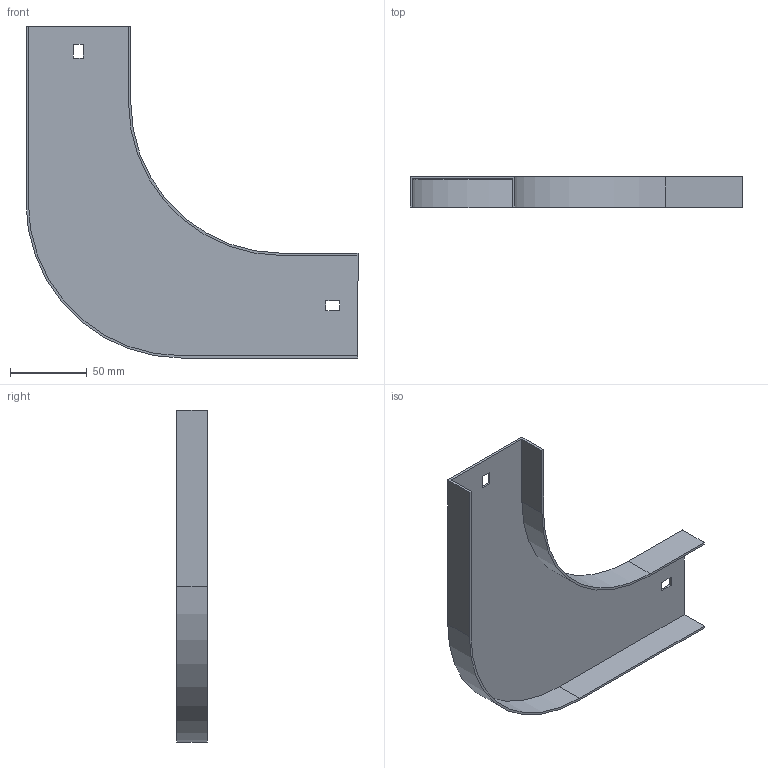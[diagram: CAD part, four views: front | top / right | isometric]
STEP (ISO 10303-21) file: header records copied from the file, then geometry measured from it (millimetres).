
FILE_DESCRIPTION (( 'STEP AP214' ), '1' );
FILE_NAME ('10N1R065.step', '2025-02-21T09:21:24', ( '' ), ( '' ), 'SwSTEP 2.0', 'SolidWorks 2023', '' );
FILE_SCHEMA (( 'AUTOMOTIVE_DESIGN' ));
Length unit declared in the file: millimetre
Products named in the file (1): 10N1R065
Bounding box: 217 x 20 x 217 mm (x, y, z)
Volume: 55089.7 mm3; surface area: 74830.1 mm2
Topology: 1 solids, 1 shells, 26 faces, 72 edges, 48 vertices
Faces by surface type: plane 22, cylinder 4
Entity records: 855 total; most frequent: CARTESIAN_POINT 147, ORIENTED_EDGE 144, DIRECTION 134, EDGE_CURVE 72, VECTOR 64, LINE 64, VERTEX_POINT 48, AXIS2_PLACEMENT_3D 35
